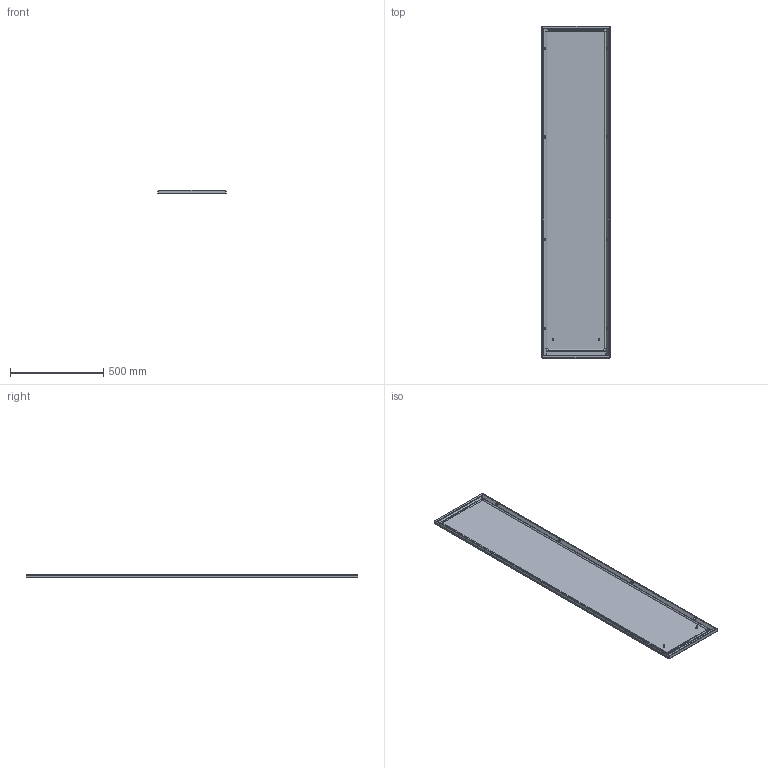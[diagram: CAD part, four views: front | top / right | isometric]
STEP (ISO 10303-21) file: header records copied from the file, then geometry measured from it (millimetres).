
FILE_DESCRIPTION (( 'STEP AP203' ), '1' );
FILE_NAME ('EUFI040180.STEP', '2015-05-04T07:40:44', ( 'Admin' ), ( '' ), 'SwSTEP 2.0', 'SolidWorks 2014', '' );
FILE_SCHEMA (( 'CONFIG_CONTROL_DESIGN' ));
Length unit declared in the file: millimetre
Products named in the file (1): EUFI040180
Bounding box: 368 x 1778 x 19 mm (x, y, z)
Volume: 986898.6 mm3; surface area: 1680554.2 mm2
Topology: 1 solids, 1 shells, 255 faces, 688 edges, 416 vertices
Faces by surface type: plane 79, cylinder 76, cone 48, torus 40, sphere 12
Entity records: 8095 total; most frequent: DIRECTION 1488, CARTESIAN_POINT 1410, ORIENTED_EDGE 1352, EDGE_CURVE 676, AXIS2_PLACEMENT_3D 570, VERTEX_POINT 416, VECTOR 348, LINE 348
